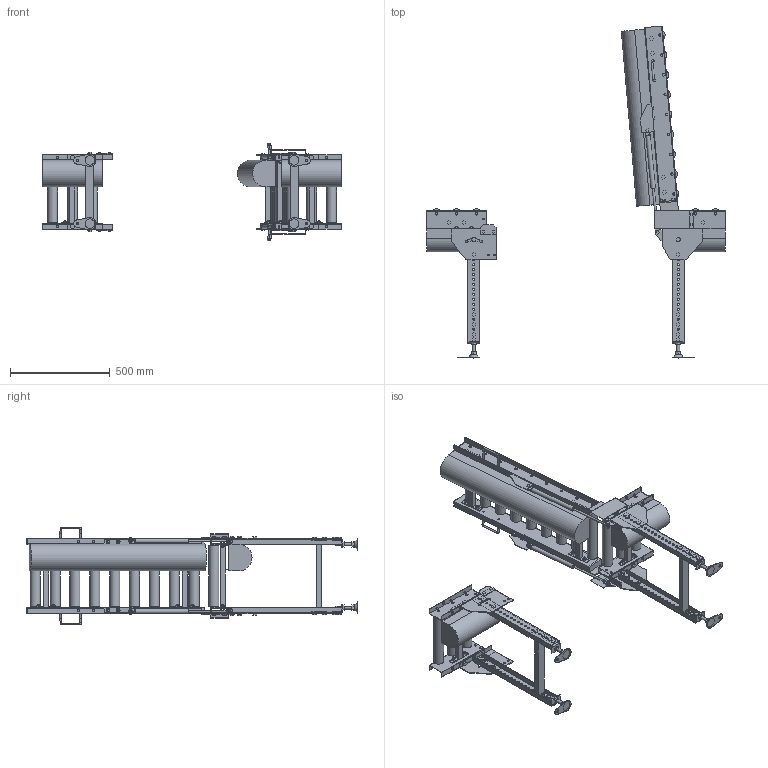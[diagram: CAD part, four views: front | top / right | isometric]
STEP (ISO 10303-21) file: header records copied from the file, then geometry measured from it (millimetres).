
FILE_DESCRIPTION (( 'STEP AP214' ), '1' );
FILE_NAME ('MCD50HU-L-315-100-900.STEP', '2022-11-17T08:06:57', ( '' ), ( '' ), 'SwSTEP 2.0', 'SolidWorks 2017', '' );
FILE_SCHEMA (( 'AUTOMOTIVE_DESIGN' ));
Length unit declared in the file: millimetre
Products named in the file (1): MCD50HU-L-315-100-900
Bounding box: 1500 x 1665.85 x 491.39 mm (x, y, z)
Volume: 35049492.7 mm3; surface area: 3782271.3 mm2
Topology: 5 solids, 31 shells, 2554 faces, 6325 edges, 4025 vertices
Faces by surface type: plane 2110, cylinder 426, cone 10, torus 8
Full cylindrical faces by diameter (mm): 8 x8, 8.5 x8, 9 x20, 10 x58, 10.5 x96, 11 x8, 12 x32, 13 x12, 14 x4, 15 x6, 15.4 x2, 15.7 x2, 16 x10, 17 x4, 18 x6, 18.4 x28, 18.5 x8, 21 x12, 22 x2, 50.8 x15
Entity records: 73580 total; most frequent: CARTESIAN_POINT 12582, DIRECTION 12284, ORIENTED_EDGE 11584, EDGE_CURVE 5792, LINE 4402, VECTOR 4402, AXIS2_PLACEMENT_3D 3941, VERTEX_POINT 3851
